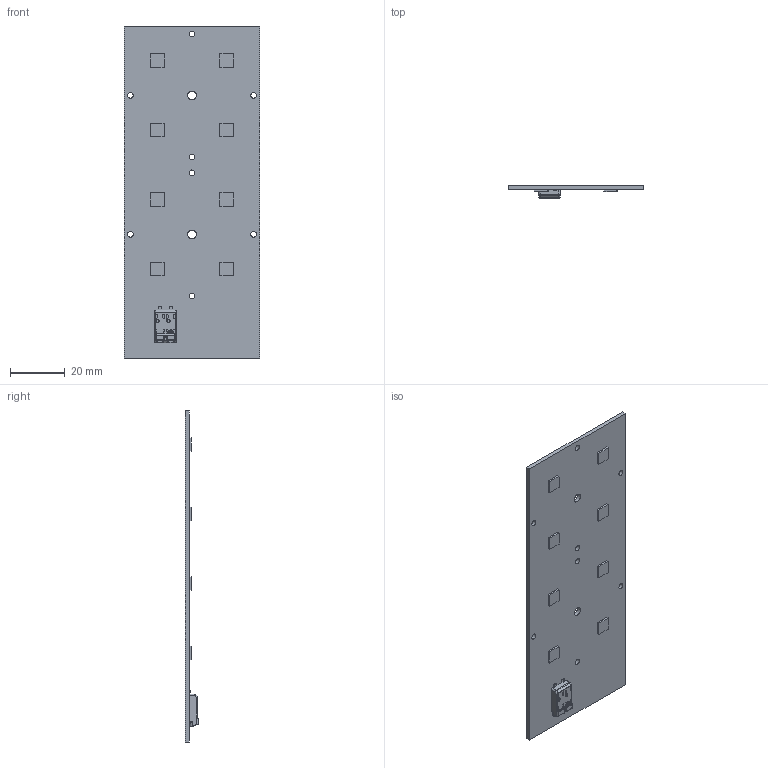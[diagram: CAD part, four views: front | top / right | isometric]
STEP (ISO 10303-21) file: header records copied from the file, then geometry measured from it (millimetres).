
FILE_DESCRIPTION(/* description */ ('Unknown'),/* implementation_level */ '2;1');
FILE_NAME(/* name */ 'RecLED 122x50mm 1900lm 2x4 5050 Opt G1 sh-000 2019-04-17',/* time_stamp */ '2019-04-17T13:25:36+02:00',/* author */ ('Unknown'),/* organization */ ('Unknown'),/* preprocessor_version */ 'ST-DEVELOPER v16.7',/* originating_system */ 'DEX',/* authorisation */ $);
FILE_SCHEMA (('AUTOMOTIVE_DESIGN {1 0 10303 214 3 1 1}'));
Length unit declared in the file: millimetre
Products named in the file (1): RecLED 122x50mm 1900lm 2x4 5050 Opt G1 sh-000 2019-04-17
Bounding box: 49.5 x 4.9 x 121.4 mm (x, y, z)
Volume: 9336.2 mm3; surface area: 12864 mm2
Topology: 1 solids, 1 shells, 448 faces, 1154 edges, 718 vertices
Faces by surface type: plane 208, cylinder 112, bspline 87, cone 20, torus 11, sphere 10
Full cylindrical faces by diameter (mm): 2.1 x8, 3.2 x2
Entity records: 18755 total; most frequent: CARTESIAN_POINT 5701, ORIENTED_EDGE 2230, DIRECTION 1720, EDGE_CURVE 1115, VERTEX_POINT 703, LINE 602, VECTOR 602, AXIS2_PLACEMENT_3D 559
